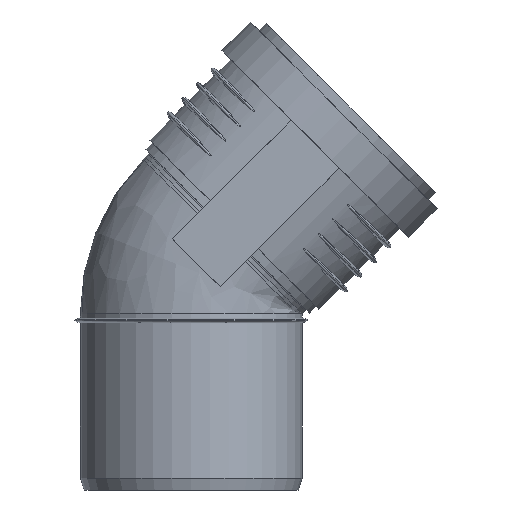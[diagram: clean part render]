
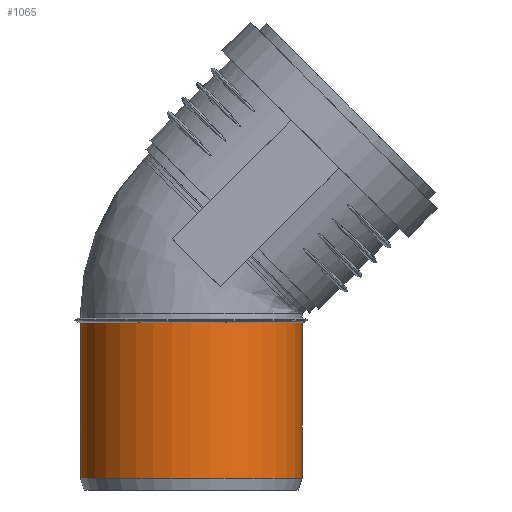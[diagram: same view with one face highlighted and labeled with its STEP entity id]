
A CAD part, front view. The second image highlights one B-rep face of the part: STEP entity #1065.
In plain terms, the highlighted cylindrical face has radius 37.6 mm (diameter 75.2 mm), a full revolution.
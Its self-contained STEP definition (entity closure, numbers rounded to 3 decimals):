
#190=CYLINDRICAL_SURFACE($,#1140,37.6);
#209=FACE_BOUND($,#314,.T.);
#252=FACE_OUTER_BOUND($,#313,.T.);
#313=EDGE_LOOP($,(#716));
#314=EDGE_LOOP($,(#717));
#414=CIRCLE($,#1138,37.6);
#416=CIRCLE($,#1141,37.6);
#469=VERTEX_POINT($,#1555);
#471=VERTEX_POINT($,#1560);
#575=EDGE_CURVE($,#469,#469,#414,.T.);
#577=EDGE_CURVE($,#471,#471,#416,.T.);
#716=ORIENTED_EDGE($,*,*,#577,.T.);
#717=ORIENTED_EDGE($,*,*,#575,.F.);
#1065=ADVANCED_FACE($,(#252,#209),#190,.T.);
#1138=AXIS2_PLACEMENT_3D($,#1556,#1267,#1268);
#1140=AXIS2_PLACEMENT_3D($,#1559,#1271,#1272);
#1141=AXIS2_PLACEMENT_3D($,#1561,#1273,#1274);
#1267=DIRECTION('center_axis',(0.,0.,-1.));
#1268=DIRECTION('ref_axis',(-1.,0.,0.));
#1271=DIRECTION('center_axis',(0.,0.,1.));
#1272=DIRECTION('ref_axis',(-1.,0.,0.));
#1273=DIRECTION('center_axis',(0.,0.,-1.));
#1274=DIRECTION('ref_axis',(-1.,0.,0.));
#1555=CARTESIAN_POINT('',(37.6,0.,4.));
#1556=CARTESIAN_POINT('Origin',(0.,0.,4.));
#1559=CARTESIAN_POINT('Origin',(0.,0.,0.));
#1560=CARTESIAN_POINT('',(-37.6,0.,56.8));
#1561=CARTESIAN_POINT('Origin',(0.,0.,56.8));
